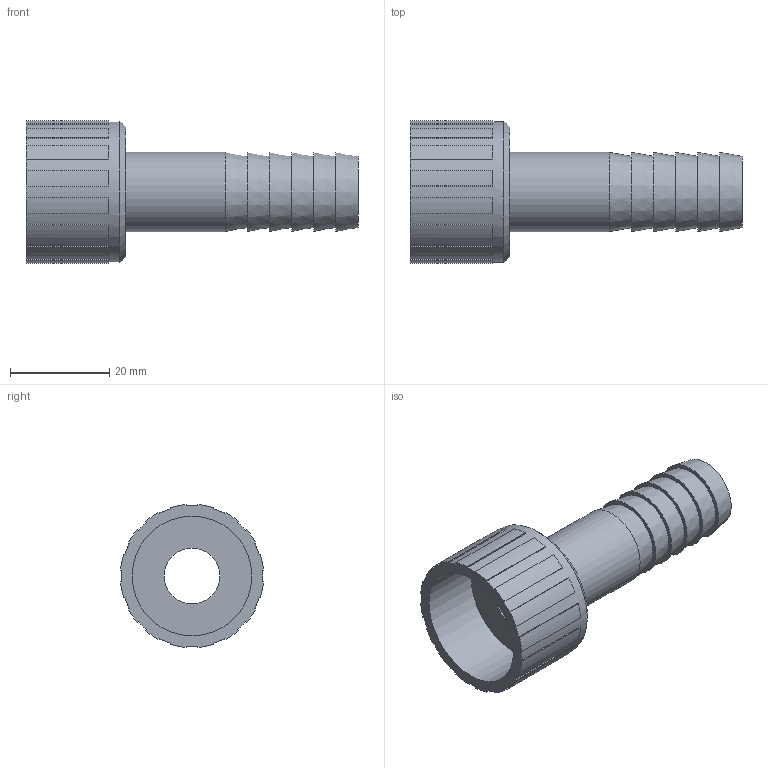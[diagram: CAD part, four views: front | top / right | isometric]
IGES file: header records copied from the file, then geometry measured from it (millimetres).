
Global section: file name: 053602016007.ipt; native system: Autodesk Inventor 2015; preprocessor: unknown; author: KIM; date: 20171207.165538; units: millimetre
Bounding box: 67 x 28.84 x 28.84 mm (x, y, z)
Volume: 10926 mm3; surface area: 8284.2 mm2
Topology: 1 solids, 1 shells, 84 faces, 227 edges, 152 vertices
Faces by surface type: plane 57, cylinder 18, cone 7, revolution 2
Full cylindrical faces by diameter (mm): 16 x1, 28.458 x1
